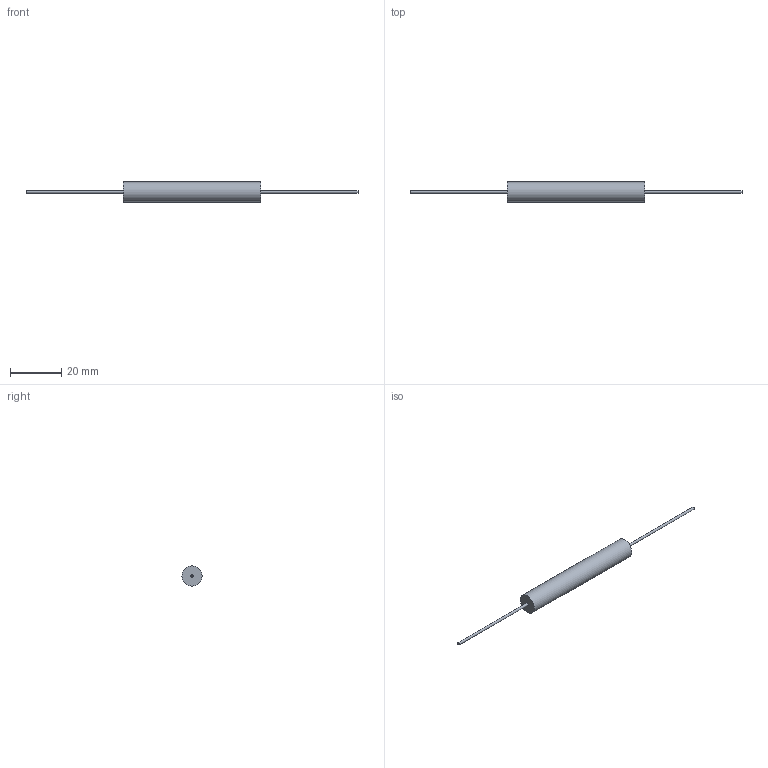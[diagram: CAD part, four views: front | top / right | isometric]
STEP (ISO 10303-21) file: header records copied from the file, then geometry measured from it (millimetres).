
FILE_DESCRIPTION(/* description */ (''),/* implementation_level */ '2;1');
FILE_NAME(/* name */ 'C:\Users\mulla\Documents\SEI Models\Inventor Files\HVAM\3D\HVAM50_stp.stp',/* time_stamp */ '2019-06-12T13:02:08-04:00',/* author */ ('mulla'),/* organization */ (''),/* preprocessor_version */ 'ST-DEVELOPER v16.1',/* originating_system */ 'Autodesk Inventor 2016',/* authorisation */ '');
FILE_SCHEMA (('AUTOMOTIVE_DESIGN { 1 0 10303 214 3 1 1 }'));
Length unit declared in the file: millimetre
Products named in the file (1): HVAM50
Bounding box: 130.18 x 7.87 x 7.87 mm (x, y, z)
Volume: 2688.1 mm3; surface area: 1679.4 mm2
Topology: 3 solids, 3 shells, 9 faces, 9 edges, 6 vertices
Faces by surface type: plane 6, cylinder 3
Full cylindrical faces by diameter (mm): 1.02 x2, 7.87 x1
Entity records: 186 total; most frequent: DIRECTION 32, CARTESIAN_POINT 22, AXIS2_PLACEMENT_3D 16, EDGE_LOOP 12, ORIENTED_EDGE 12, FACE_OUTER_BOUND 9, ADVANCED_FACE 9, PLANE 6
